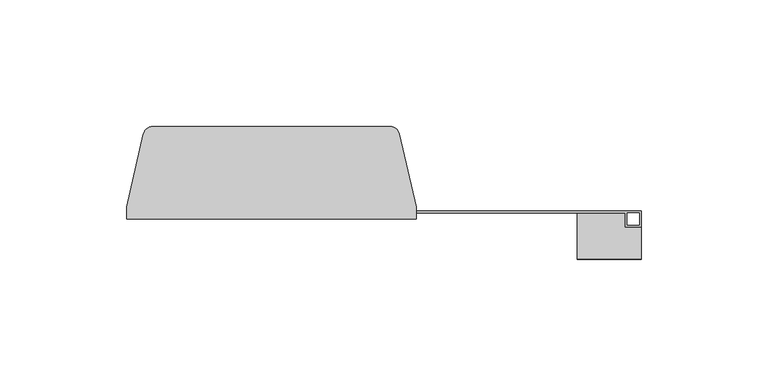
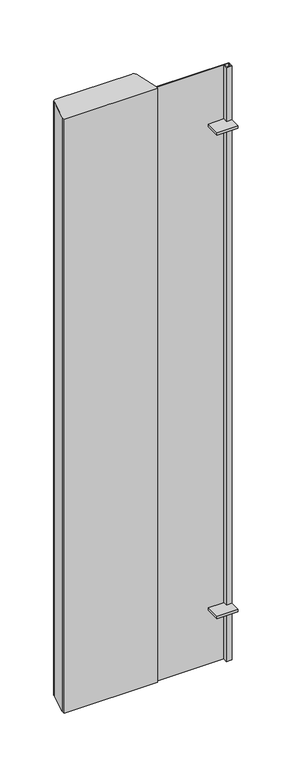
"""IFC4 building model written with IfcOpenShell, lengths in millimetres: furniture geometry, HermanMiller_Carts_CT710_LockBarRight : 42H Cart Rt Side Lock Keyed Alike."""

from ifc_helpers import new_model, si_unit, point, frame, frame_2d, origin, place, context, project, spatial, polyline, circle_curve, trimmed, segment, composite_curve, outline, extrude, source, transform, mapped, element, save


def furniture_699e4faa(model_context):
    return source(origin(), model_context, "Body", "SweptSolid", [
        extrude(outline(composite_curve([segment(trimmed(circle_curve(frame_2d((-13.6569003, -3.9497)), 3.9624), [point((-13.6569003, 0.0127))], [point((-9.7960564, -3.0583539))], False, "CARTESIAN"), True, "CONTINUOUS"), segment(polyline([(-9.7960564, -3.0583539), (-3.175, -31.7373), (-3.175, -36.5125), (-117.475, -36.5125), (-117.475, -31.7373), (-110.8539436, -3.0583539)]), True, "CONTINUOUS"), segment(trimmed(circle_curve(frame_2d((-106.9930997, -3.9497)), 3.9624), [point((-110.8539436, -3.0583539))], [point((-106.9930997, 0.0127))], False, "CARTESIAN"), True, "CONTINUOUS"), segment(polyline([(-106.9930997, 0.0127), (-13.6569003, 0.0127)]), True, "CONTINUOUS")], self_intersect=False)), frame((0.0, 0.0, 3.1813846), z_axis=(0.0, 0.0, 1.0), x_axis=(1.0, 0.0, 0.0)), (0.0, 0.0, 1.0), 768.35),
        extrude(outline(polyline([(60.325, -52.3875), (60.325, -34.1452298), (79.375, -34.1452298), (79.375, -39.6875), (85.725, -39.6875), (85.725, -52.3875), (60.325, -52.3875)])), frame((0.0, 0.0, 73.0313846), z_axis=(0.0, 0.0, 1.0), x_axis=(1.0, 0.0, 0.0)), (0.0, 0.0, 1.0), 3.175),
        extrude(outline(polyline([(60.325, -52.3875), (60.325, -34.1452298), (79.375, -34.1452298), (79.375, -39.6875), (85.725, -39.6875), (85.725, -52.3875), (60.325, -52.3875)])), frame((0.0, 0.0, 698.5063846), z_axis=(0.0, 0.0, 1.0), x_axis=(1.0, 0.0, 0.0)), (0.0, 0.0, 1.0), 3.175),
        extrude(outline(polyline([(79.375, -34.1452298), (-3.175, -34.1452298), (-3.175, -33.3375), (85.725, -33.3375), (85.725, -39.6875), (79.375, -39.6875), (79.375, -34.1452298)]), holes=[polyline([(80.1999447, -38.8797702), (84.9000553, -38.8797702), (84.9000553, -34.1452298), (80.1999447, -34.1452298), (80.1999447, -38.8797702)])]), frame((0.0, 0.0, 3.1813846), z_axis=(0.0, 0.0, 1.0), x_axis=(1.0, 0.0, 0.0)), (0.0, 0.0, 1.0), 768.35),
    ])


if __name__ == "__main__":
    model = new_model("IFC4")
    model_context = context("Model", 3, world=origin())
    ifc_project = project(units=[si_unit("LENGTHUNIT", "METRE", prefix="MILLI")], contexts=[model_context])
    site = spatial("IfcSite", under=ifc_project)
    building = spatial("IfcBuilding", under=site)
    placement = place(None, origin())
    furniture_shape = furniture_699e4faa(model_context)
    element("IfcFurniture", 1, ObjectType="HermanMiller_Carts_CT710_LockBarRight : 42H Cart Rt Side Lock Keyed Alike", at=placement, inside=building, context=model_context, shape_type="MappedRepresentation", body=[
        mapped(furniture_shape, transform((0.0, 0.0, 0.0), x_axis=(1.0, 0.0, 0.0), y_axis=(0.0, 1.0, 0.0), z_axis=(0.0, 0.0, 1.0))),
    ])
    save(model, "model.ifc")
